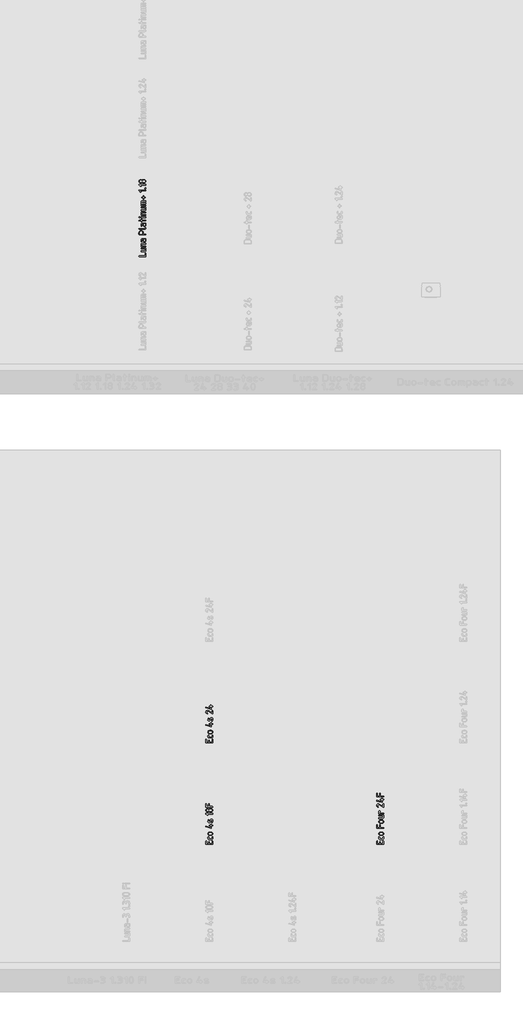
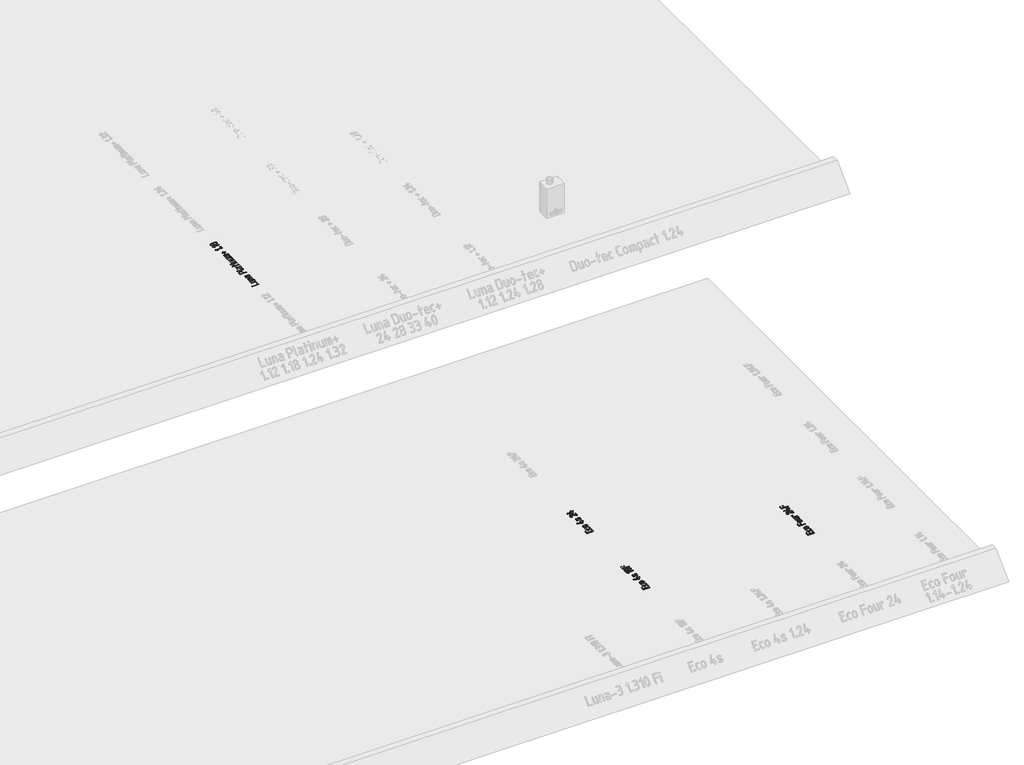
# One storey, part 20 of 37: 4 proxies.
"""IFC4 building model written with IfcOpenShell, lengths in millimetres."""

from ifc_helpers import new_model, si_unit, frame, origin, origin_with_axes, place, context, project, spatial, polyline, outline, extrude, element, save

model = new_model("IFC4")

# Units and contexts
model_context = context("Model", 3, world=origin())
ifc_project = project(units=[si_unit("LENGTHUNIT", "METRE", prefix="MILLI")], contexts=[model_context])

# Site, building, storey
site = spatial("IfcSite", under=ifc_project)
building = spatial("IfcBuilding", under=site)
storey = spatial("IfcBuildingStorey", under=building, Name="01_Стартовый вид_Площадка", Elevation=0.0)

# Proxies
placement = place(None, origin())
element("IfcBuildingElementProxy", 1, Name="150 мм", ObjectType="150 мм", at=placement, inside=storey, context=model_context, shape_type="SweptSolid", body=[
    extrude(outline(polyline([(15539.4355153, -2311.7183075), (15533.7723757, -2309.8006306), (15531.8846626, -2304.0475999), (15533.7623878, -2298.2945692), (15539.3955637, -2296.3768923), (15667.4004968, -2296.3768923), (15667.4004968, -2243.8804872), (15669.3181737, -2238.2473113), (15675.0712044, -2236.369586), (15680.8242351, -2238.2473113), (15682.741912, -2243.8804872), (15682.741912, -2304.0475999), (15680.8541988, -2309.8006306), (15675.1910592, -2311.7183075), (15539.4355153, -2311.7183075)])), frame((0.0, 0.0, -10.0), z_axis=(0.0, 0.0, 1.0), x_axis=(1.0, 0.0, 0.0)), (0.0, 0.0, 1.0), 10.0),
    extrude(outline(polyline([(15585.3798577, -2132.7351302), (15675.2709624, -2132.7351302), (15680.8741746, -2134.5928797), (15682.741912, -2140.1661282), (15682.741912, -2177.2412149), (15680.5745376, -2188.7372884), (15674.0724143, -2198.2957092), (15664.4141145, -2204.737905), (15652.7782104, -2206.8853037), (15585.3798577, -2206.8853037), (15579.7766455, -2204.9676268), (15577.9089081, -2199.2145961), (15579.7766455, -2193.4615654), (15585.3798577, -2191.5438885), (15652.4985492, -2191.5438885), (15662.9858448, -2187.269067), (15667.4004968, -2177.0414569), (15667.4004968, -2148.0765454), (15585.3798577, -2148.0765454), (15579.7766455, -2146.1588685), (15577.9089081, -2140.4058378), (15579.7766455, -2134.6528071), (15585.3798577, -2132.7351302)])), frame((0.0, 0.0, -10.0), z_axis=(0.0, 0.0, 1.0), x_axis=(1.0, 0.0, 0.0)), (0.0, 0.0, 1.0), 10.0),
    extrude(outline(polyline([(15675.2709624, -2102.0522998), (15585.3798577, -2102.0522998), (15579.7766455, -2100.1945503), (15577.9089081, -2094.6213018), (15577.9089081, -2057.5462151), (15580.0762826, -2046.0501416), (15586.5784058, -2036.4917208), (15596.2367056, -2030.049525), (15607.8726097, -2027.9021263), (15675.2709624, -2027.9021263), (15680.8741746, -2029.8198032), (15682.741912, -2035.5728339), (15680.8741746, -2041.3258646), (15675.2709624, -2043.2435415), (15608.1522709, -2043.2435415), (15597.5451206, -2047.418484), (15593.2503233, -2057.7459731), (15593.2503233, -2086.7108846), (15675.2709624, -2086.7108846), (15680.8741746, -2088.6285615), (15682.741912, -2094.3815922), (15680.8741746, -2100.1346229), (15675.2709624, -2102.0522998)])), frame((0.0, 0.0, -10.0), z_axis=(0.0, 0.0, 1.0), x_axis=(1.0, 0.0, 0.0)), (0.0, 0.0, 1.0), 10.0),
    extrude(outline(polyline([(15682.741912, -1968.4141909), (15680.5196041, -1980.0301192), (15673.8526805, -1989.7083948), (15663.9596651, -1996.2404817), (15652.0590816, -1998.417844), (15636.5978116, -1994.4226838), (15625.1816413, -1983.6657149), (15621.3762512, -1968.4141909), (15621.3762512, -1938.4105377), (15607.3132873, -1938.4105377), (15597.305411, -1942.7253107), (15593.2503233, -1953.3923885), (15593.2503233, -1983.3960416), (15591.3326464, -1989.0292175), (15585.5796157, -1990.9069428), (15579.826585, -1989.0292175), (15577.9089081, -1983.3960416), (15577.9089081, -1953.3923885), (15580.0762826, -1941.7115388), (15586.5784058, -1931.9184024), (15596.2367056, -1925.2814425), (15607.8726097, -1923.0691225), (15675.2709624, -1923.0691225), (15680.8741746, -1924.9867994), (15682.741912, -1930.7398301), (15682.741912, -1968.4141909)]), holes=[polyline([(15636.7176664, -1938.4105377), (15636.7176664, -1968.4141909), (15641.1922458, -1979.0213412), (15652.0590816, -1983.3960416), (15662.86599, -1978.9614138), (15667.4004968, -1968.4141909), (15667.4004968, -1938.4105377), (15636.7176664, -1938.4105377)])]), frame((0.0, 0.0, -10.0), z_axis=(0.0, 0.0, 1.0), x_axis=(1.0, 0.0, 0.0)), (0.0, 0.0, 1.0), 10.0),
    extrude(outline(polyline([(15531.8846626, -1833.7772919), (15531.8846626, -1796.5024471), (15535.2405971, -1779.248349), (15545.3084008, -1764.8008509), (15560.1703968, -1755.0177023), (15577.9089081, -1751.7566528), (15596.4464515, -1754.847908), (15611.1486411, -1764.1216736), (15620.7370256, -1778.33945), (15623.9331537, -1796.2627375), (15623.9331537, -1825.9068262), (15675.3908172, -1825.9068262), (15680.9041383, -1827.8245031), (15682.741912, -1833.5775338), (15680.8541988, -1839.3305645), (15675.1910592, -1841.2482414), (15539.4355153, -1841.2482414), (15533.7723757, -1839.380504), (15531.8846626, -1833.7772919)]), holes=[polyline([(15547.2260777, -1825.9068262), (15608.5917385, -1825.9068262), (15608.5917385, -1796.5024471), (15606.3694307, -1785.1112466), (15599.7025071, -1775.627735), (15589.8094916, -1769.2304848), (15577.9089081, -1767.098068), (15566.0083247, -1769.2304848), (15556.1153092, -1775.627735), (15549.4483856, -1785.1112466), (15547.2260777, -1796.5024471), (15547.2260777, -1825.9068262)])]), frame((0.0, 0.0, -10.0), z_axis=(0.0, 0.0, 1.0), x_axis=(1.0, 0.0, 0.0)), (0.0, 0.0, 1.0), 10.0),
    extrude(outline(polyline([(15539.4355153, -1721.0738224), (15533.7723757, -1719.1561455), (15531.8846626, -1713.4031148), (15533.7723757, -1707.6500841), (15539.4355153, -1705.7324072), (15660.1293052, -1705.7324072), (15664.9035217, -1703.8596759), (15667.6402064, -1698.2414818), (15670.3868791, -1692.6232878), (15675.1910592, -1690.7505564), (15680.8541988, -1692.6182938), (15682.741912, -1698.221506), (15681.2437269, -1707.4453321), (15676.7491717, -1714.7414935), (15669.5978349, -1719.4907402), (15660.1293052, -1721.0738224), (15539.4355153, -1721.0738224)])), frame((0.0, 0.0, -10.0), z_axis=(0.0, 0.0, 1.0), x_axis=(1.0, 0.0, 0.0)), (0.0, 0.0, 1.0), 10.0),
    extrude(outline(polyline([(15682.741912, -1633.459959), (15680.5196041, -1645.0758873), (15673.8526805, -1654.754163), (15663.9596651, -1661.2862499), (15652.0590816, -1663.4636122), (15636.5978116, -1659.468452), (15625.1816413, -1648.7114831), (15621.3762512, -1633.459959), (15621.3762512, -1603.4563059), (15607.3132873, -1603.4563059), (15597.305411, -1607.7710789), (15593.2503233, -1618.4381567), (15593.2503233, -1648.4418098), (15591.3326464, -1654.0749857), (15585.5796157, -1655.952711), (15579.826585, -1654.0749857), (15577.9089081, -1648.4418098), (15577.9089081, -1618.4381567), (15580.0762826, -1606.757307), (15586.5784058, -1596.9641705), (15596.2367056, -1590.3272107), (15607.8726097, -1588.1148907), (15675.2709624, -1588.1148907), (15680.8741746, -1590.0325676), (15682.741912, -1595.7855983), (15682.741912, -1633.459959)]), holes=[polyline([(15636.7176664, -1603.4563059), (15636.7176664, -1633.459959), (15641.1922458, -1644.0671094), (15652.0590816, -1648.4418098), (15662.86599, -1644.007182), (15667.4004968, -1633.459959), (15667.4004968, -1603.4563059), (15636.7176664, -1603.4563059)])]), frame((0.0, 0.0, -10.0), z_axis=(0.0, 0.0, 1.0), x_axis=(1.0, 0.0, 0.0)), (0.0, 0.0, 1.0), 10.0),
    extrude(outline(polyline([(15593.2503233, -1542.0906451), (15593.2503233, -1549.6015463), (15591.3326464, -1555.2347222), (15585.5796157, -1557.1124475), (15579.826585, -1555.2347222), (15577.9089081, -1549.6015463), (15577.9089081, -1542.0906451), (15539.5553702, -1542.0906451), (15533.8023395, -1540.1729682), (15531.8846626, -1534.4199375), (15533.8023395, -1528.6669068), (15539.5553702, -1526.7492299), (15577.9089081, -1526.7492299), (15577.9089081, -1504.2165263), (15579.826585, -1498.6133141), (15585.5796157, -1496.7455767), (15591.3326464, -1498.6133141), (15593.2503233, -1504.2165263), (15593.2503233, -1526.7492299), (15675.2709624, -1526.7492299), (15680.8741746, -1528.6669068), (15682.741912, -1534.4199375), (15680.8741746, -1540.1729682), (15675.2709624, -1542.0906451), (15593.2503233, -1542.0906451)])), frame((0.0, 0.0, -10.0), z_axis=(0.0, 0.0, 1.0), x_axis=(1.0, 0.0, 0.0)), (0.0, 0.0, 1.0), 10.0),
    extrude(outline(polyline([(15585.2200513, -1467.9404716), (15579.6168391, -1466.0227947), (15577.7491017, -1460.269764), (15579.6168391, -1454.5167333), (15585.2200513, -1452.5990564), (15675.2310108, -1452.5990564), (15680.8641867, -1454.5167333), (15682.741912, -1460.269764), (15680.8641867, -1466.0227947), (15675.2310108, -1467.9404716), (15585.2200513, -1467.9404716)])), frame((0.0, 0.0, -10.0), z_axis=(0.0, 0.0, 1.0), x_axis=(1.0, 0.0, 0.0)), (0.0, 0.0, 1.0), 10.0),
    extrude(outline(polyline([(15546.9064649, -1467.9404716), (15539.3955637, -1467.9404716), (15533.7623878, -1466.0227947), (15531.8846626, -1460.269764), (15533.7623878, -1454.5167333), (15539.3955637, -1452.5990564), (15546.9064649, -1452.5990564), (15552.5396408, -1454.5167333), (15554.4173661, -1460.269764), (15552.5396408, -1466.0227947), (15546.9064649, -1467.9404716)])), frame((0.0, 0.0, -10.0), z_axis=(0.0, 0.0, 1.0), x_axis=(1.0, 0.0, 0.0)), (0.0, 0.0, 1.0), 10.0),
    extrude(outline(polyline([(15675.2709624, -1421.916226), (15585.3798577, -1421.916226), (15579.7766455, -1420.0584766), (15577.9089081, -1414.4852281), (15577.9089081, -1377.4101413), (15580.0762826, -1365.9140678), (15586.5784058, -1356.355647), (15596.2367056, -1349.9134512), (15607.8726097, -1347.7660526), (15675.2709624, -1347.7660526), (15680.8741746, -1349.6837295), (15682.741912, -1355.4367602), (15680.8741746, -1361.1897909), (15675.2709624, -1363.1074678), (15608.1522709, -1363.1074678), (15597.5451206, -1367.2824102), (15593.2503233, -1377.6098993), (15593.2503233, -1406.5748108), (15675.2709624, -1406.5748108), (15680.8741746, -1408.4924877), (15682.741912, -1414.2455184), (15680.8741746, -1419.9985491), (15675.2709624, -1421.916226)])), frame((0.0, 0.0, -10.0), z_axis=(0.0, 0.0, 1.0), x_axis=(1.0, 0.0, 0.0)), (0.0, 0.0, 1.0), 10.0),
    extrude(outline(polyline([(15585.3798577, -1242.9330487), (15675.2709624, -1242.9330487), (15680.8741746, -1244.7907982), (15682.741912, -1250.3640467), (15682.741912, -1287.4391335), (15680.5745376, -1298.935207), (15674.0724143, -1308.4936278), (15664.4141145, -1314.9358236), (15652.7782104, -1317.0832222), (15585.3798577, -1317.0832222), (15579.7766455, -1315.1655453), (15577.9089081, -1309.4125146), (15579.7766455, -1303.6594839), (15585.3798577, -1301.741807), (15652.4985492, -1301.741807), (15662.9858448, -1297.4669856), (15667.4004968, -1287.2393754), (15667.4004968, -1258.2744639), (15585.3798577, -1258.2744639), (15579.7766455, -1256.356787), (15577.9089081, -1250.6037563), (15579.7766455, -1244.8507256), (15585.3798577, -1242.9330487)])), frame((0.0, 0.0, -10.0), z_axis=(0.0, 0.0, 1.0), x_axis=(1.0, 0.0, 0.0)), (0.0, 0.0, 1.0), 10.0),
    extrude(outline(polyline([(15577.9089081, -1204.5795107), (15577.9089081, -1135.5431424), (15580.0762826, -1123.6425589), (15586.5784058, -1113.7495434), (15596.2367056, -1107.0826198), (15607.8726097, -1104.860312), (15675.2709624, -1104.860312), (15680.8741746, -1106.7779889), (15682.741912, -1112.5310196), (15680.8741746, -1118.2840503), (15675.2709624, -1120.2017272), (15608.1522709, -1120.2017272), (15597.5451206, -1124.6163792), (15593.2503233, -1135.5431424), (15593.2503233, -1150.8845576), (15675.2709624, -1150.8845576), (15680.8741746, -1152.8022345), (15682.741912, -1158.5552652), (15680.8741746, -1164.3082959), (15675.2709624, -1166.2259728), (15593.2503233, -1166.2259728), (15593.2503233, -1196.9088031), (15675.2709624, -1196.9088031), (15680.8741746, -1198.82648), (15682.741912, -1204.5795107), (15680.8741746, -1210.3325414), (15675.2709624, -1212.2502183), (15585.3798577, -1212.2502183), (15579.7766455, -1210.3325414), (15577.9089081, -1204.5795107)])), frame((0.0, 0.0, -10.0), z_axis=(0.0, 0.0, 1.0), x_axis=(1.0, 0.0, 0.0)), (0.0, 0.0, 1.0), 10.0),
    extrude(outline(polyline([(15636.7176664, -1043.4946512), (15636.7176664, -1065.9874031), (15634.7999895, -1071.620579), (15629.0469588, -1073.4983043), (15623.2939281, -1071.620579), (15621.3762512, -1065.9874031), (15621.3762512, -1043.4946512), (15600.2818053, -1043.4946512), (15595.0081938, -1041.5769743), (15593.2503233, -1035.8239436), (15595.0081938, -1030.0709129), (15600.2818053, -1028.153236), (15621.3762512, -1028.153236), (15621.3762512, -1005.660484), (15623.2939281, -1000.0273081), (15629.0469588, -998.1495828), (15634.7999895, -1000.0273081), (15636.7176664, -1005.660484), (15636.7176664, -1028.153236), (15659.7297892, -1028.153236), (15665.4828199, -1030.0709129), (15667.4004968, -1035.8239436), (15665.4828199, -1041.5769743), (15659.7297892, -1043.4946512), (15636.7176664, -1043.4946512)])), frame((0.0, 0.0, -10.0), z_axis=(0.0, 0.0, 1.0), x_axis=(1.0, 0.0, 0.0)), (0.0, 0.0, 1.0), 10.0),
    extrude(outline(polyline([(15557.6134943, -887.5235967), (15574.912538, -904.7826888), (15577.0699245, -910.0163486), (15575.1921992, -915.6495245), (15569.5590233, -917.5272498), (15564.3253634, -915.3299117), (15534.8410811, -886.0054358), (15531.8846626, -879.8528891), (15533.7723757, -874.0998584), (15539.4355153, -872.1821815), (15675.1910592, -872.1821815), (15680.8541988, -874.0998584), (15682.741912, -879.8528891), (15680.8541988, -885.6059198), (15675.1910592, -887.5235967), (15557.6134943, -887.5235967)])), frame((0.0, 0.0, -10.0), z_axis=(0.0, 0.0, 1.0), x_axis=(1.0, 0.0, 0.0)), (0.0, 0.0, 1.0), 10.0),
    extrude(outline(polyline([(15667.4004968, -841.4993511), (15661.6474661, -839.5816742), (15659.7297892, -833.8286435), (15661.6474661, -828.0756128), (15667.4004968, -826.1579359), (15675.0712044, -826.1579359), (15680.8242351, -828.0756128), (15682.741912, -833.8286435), (15680.8242351, -839.5816742), (15675.0712044, -841.4993511), (15667.4004968, -841.4993511)])), frame((0.0, 0.0, -10.0), z_axis=(0.0, 0.0, 1.0), x_axis=(1.0, 0.0, 0.0)), (0.0, 0.0, 1.0), 10.0),
    extrude(outline(polyline([(15557.6134943, -764.7922751), (15574.912538, -782.0513672), (15577.0699245, -787.2850271), (15575.1921992, -792.9182029), (15569.5590233, -794.7959282), (15564.3253634, -792.5985901), (15534.8410811, -763.2741142), (15531.8846626, -757.1215675), (15533.7723757, -751.3685368), (15539.4355153, -749.4508599), (15675.1910592, -749.4508599), (15680.8541988, -751.3685368), (15682.741912, -757.1215675), (15680.8541988, -762.8745982), (15675.1910592, -764.7922751), (15557.6134943, -764.7922751)])), frame((0.0, 0.0, -10.0), z_axis=(0.0, 0.0, 1.0), x_axis=(1.0, 0.0, 0.0)), (0.0, 0.0, 1.0), 10.0),
    extrude(outline(polyline([(15682.741912, -681.6929428), (15679.9852515, -695.9406829), (15671.7152698, -707.9211695), (15659.5300312, -716.0563145), (15645.0275996, -718.7680295), (15629.925894, -718.7680295), (15613.0163785, -714.9326757), (15599.7624345, -703.4266143), (15586.5084905, -714.9326757), (15569.5989749, -718.7680295), (15555.0965434, -716.0563145), (15542.9113047, -707.9211695), (15534.6413231, -695.9406829), (15531.8846626, -681.6929428), (15534.6413231, -667.4452027), (15542.9113047, -655.464716), (15555.0965434, -647.329571), (15569.5989749, -644.617856), (15586.5084905, -648.4532098), (15599.7624345, -659.9592712), (15608.9413151, -651.7092654), (15620.0178967, -647.1747586), (15645.0275996, -644.617856), (15659.5300312, -647.329571), (15671.7152698, -655.464716), (15679.9852515, -667.4452027), (15682.741912, -681.6929428)]), holes=[polyline([(15667.4004968, -681.6929428), (15665.7624811, -673.2831305), (15660.8484341, -666.2716244), (15653.5772425, -661.5373595), (15644.8677932, -659.9592712), (15629.8859424, -659.9592712), (15621.2563964, -661.5523414), (15613.9852048, -666.3315518), (15609.0411941, -673.3580398), (15607.3931905, -681.6929428), (15609.0262122, -690.102755), (15613.9252774, -697.1142612), (15621.1814871, -701.848526), (15629.8859424, -703.4266143), (15644.8677932, -703.4266143), (15653.5772425, -701.848526), (15660.8484341, -697.1142612), (15665.7624811, -690.102755), (15667.4004968, -681.6929428)]), polyline([(15592.7309525, -681.6929428), (15591.0979308, -673.2831305), (15586.1988656, -666.2716244), (15578.9426558, -661.5373595), (15570.2382005, -659.9592712), (15561.6086545, -661.5523414), (15554.3374629, -666.3315518), (15549.3934522, -673.3580398), (15547.7454486, -681.6929428), (15549.3784703, -690.102755), (15554.2775355, -697.1142612), (15561.5337452, -701.848526), (15570.2382005, -703.4266143), (15578.9426558, -701.848526), (15586.1988656, -697.1142612), (15591.0979308, -690.102755), (15592.7309525, -681.6929428)])]), frame((0.0, 0.0, -10.0), z_axis=(0.0, 0.0, 1.0), x_axis=(1.0, 0.0, 0.0)), (0.0, 0.0, 1.0), 10.0),
])
element("IfcBuildingElementProxy", 2, Name="150 мм", ObjectType="150 мм", at=placement, inside=storey, context=model_context, shape_type="SweptSolid", body=[
    extrude(outline(polyline([(20822.6374214, -15038.8871108), (20686.8818775, -15038.8871108), (20681.2187379, -15036.9694339), (20679.3310247, -15031.2164032), (20679.3310247, -14971.0492905), (20681.2487016, -14965.4161146), (20687.0017323, -14963.5383893), (20692.754763, -14965.4161146), (20694.6724399, -14971.0492905), (20694.6724399, -15023.5456956), (20740.6966855, -15023.5456956), (20740.6966855, -14986.0311412), (20742.6143624, -14980.427929), (20748.3673931, -14978.5601916), (20754.1204238, -14980.427929), (20756.0381007, -14986.0311412), (20756.0381007, -15023.5456956), (20814.846859, -15023.5456956), (20814.846859, -14971.0492905), (20816.7645359, -14965.4161146), (20822.5175666, -14963.5383893), (20828.2705973, -14965.4161146), (20830.1882742, -14971.0492905), (20830.1882742, -15031.2164032), (20828.300561, -15036.9694339), (20822.6374214, -15038.8871108)])), origin_with_axes(), (0.0, 0.0, 1.0), 10.0),
    extrude(outline(polyline([(20755.5187299, -14918.7126917), (20800.0248146, -14918.7126917), (20810.4721585, -14914.2780639), (20814.846859, -14903.730841), (20814.846859, -14881.1981374), (20816.7645359, -14875.5949252), (20822.5175666, -14873.7271878), (20828.2705973, -14875.5949252), (20830.1882742, -14881.1981374), (20830.1882742, -14903.730841), (20828.0208998, -14915.3867209), (20821.5187765, -14925.1848513), (20811.8604767, -14931.836793), (20800.2245726, -14934.0541069), (20755.3189719, -14934.0541069), (20743.6830678, -14931.836793), (20734.024768, -14925.1848513), (20727.5226447, -14915.3867209), (20725.3552703, -14903.730841), (20725.3552703, -14881.1981374), (20727.2729472, -14875.5949252), (20733.0259779, -14873.7271878), (20738.7790086, -14875.5949252), (20740.6966855, -14881.1981374), (20740.6966855, -14903.730841), (20745.0314343, -14914.3379913), (20755.5187299, -14918.7126917)])), origin_with_axes(), (0.0, 0.0, 1.0), 10.0),
    extrude(outline(polyline([(20792.753623, -14844.5625183), (20762.7899215, -14844.5625183), (20748.3973568, -14841.8508033), (20736.3020093, -14833.7156583), (20728.0919551, -14821.7351716), (20725.3552703, -14807.4874315), (20728.0619914, -14793.089873), (20736.1821545, -14781.13935), (20748.2475383, -14773.0940961), (20762.7899215, -14770.4123448), (20792.753623, -14770.4123448), (20807.1461877, -14773.1240598), (20819.2415352, -14781.2592048), (20827.4515894, -14793.2396915), (20830.1882742, -14807.4874315), (20827.4515894, -14821.7351716), (20819.2415352, -14833.7156583), (20807.1461877, -14841.8508033), (20792.753623, -14844.5625183)]), holes=[polyline([(20792.3141554, -14785.75376), (20762.3105022, -14785.75376), (20753.6809562, -14787.3468302), (20746.4097646, -14792.1260406), (20741.4657539, -14799.1525286), (20739.8177503, -14807.4874315), (20741.4657539, -14815.8223345), (20746.4097646, -14822.8488225), (20753.6809562, -14827.6280329), (20762.3105022, -14829.2211031), (20792.3141554, -14829.2211031), (20801.0236047, -14827.6430148), (20808.2947962, -14822.90875), (20813.2088433, -14815.8972438), (20814.846859, -14807.4874315), (20813.1988554, -14799.1525286), (20808.2548446, -14792.1260406), (20800.9736651, -14787.3468302), (20792.3141554, -14785.75376)])]), origin_with_axes(), (0.0, 0.0, 1.0), 10.0),
    extrude(outline(polyline([(20822.6374214, -14688.5914638), (20686.8818775, -14688.5914638), (20681.2187379, -14686.6737869), (20679.3310247, -14680.9207562), (20679.3310247, -14620.7536434), (20681.2487016, -14615.1204675), (20687.0017323, -14613.2427423), (20692.754763, -14615.1204675), (20694.6724399, -14620.7536434), (20694.6724399, -14673.2500486), (20740.6966855, -14673.2500486), (20740.6966855, -14620.7536434), (20742.6143624, -14615.1204675), (20748.3673931, -14613.2427423), (20754.1204238, -14615.1204675), (20756.0381007, -14620.7536434), (20756.0381007, -14673.2500486), (20822.7572762, -14673.2500486), (20828.3305247, -14675.1677255), (20830.1882742, -14680.9207562), (20828.300561, -14686.6737869), (20822.6374214, -14688.5914638)])), origin_with_axes(), (0.0, 0.0, 1.0), 10.0),
    extrude(outline(polyline([(20792.753623, -14583.7584599), (20762.7899215, -14583.7584599), (20748.3973568, -14581.0467449), (20736.3020093, -14572.9116), (20728.0919551, -14560.9311133), (20725.3552703, -14546.6833732), (20728.0619914, -14532.2858146), (20736.1821545, -14520.3352916), (20748.2475383, -14512.2900378), (20762.7899215, -14509.6082865), (20792.753623, -14509.6082865), (20807.1461877, -14512.3200015), (20819.2415352, -14520.4551464), (20827.4515894, -14532.4356331), (20830.1882742, -14546.6833732), (20827.4515894, -14560.9311133), (20819.2415352, -14572.9116), (20807.1461877, -14581.0467449), (20792.753623, -14583.7584599)]), holes=[polyline([(20792.3141554, -14524.9497017), (20762.3105022, -14524.9497017), (20753.6809562, -14526.5427718), (20746.4097646, -14531.3219822), (20741.4657539, -14538.3484702), (20739.8177503, -14546.6833732), (20741.4657539, -14555.0182762), (20746.4097646, -14562.0447642), (20753.6809562, -14566.8239746), (20762.3105022, -14568.4170447), (20792.3141554, -14568.4170447), (20801.0236047, -14566.8389564), (20808.2947962, -14562.1046916), (20813.2088433, -14555.0931854), (20814.846859, -14546.6833732), (20813.1988554, -14538.3484702), (20808.2548446, -14531.3219822), (20800.9736651, -14526.5427718), (20792.3141554, -14524.9497017)])]), origin_with_axes(), (0.0, 0.0, 1.0), 10.0),
    extrude(outline(polyline([(20732.8262199, -14404.7752826), (20822.7173246, -14404.7752826), (20828.3205368, -14406.6330321), (20830.1882742, -14412.2062806), (20830.1882742, -14449.2813673), (20828.0208998, -14460.7774408), (20821.5187765, -14470.3358616), (20811.8604767, -14476.7780575), (20800.2245726, -14478.9254561), (20732.8262199, -14478.9254561), (20727.2230077, -14477.0077792), (20725.3552703, -14471.2547485), (20727.2230077, -14465.5017178), (20732.8262199, -14463.5840409), (20799.9449114, -14463.5840409), (20810.4322069, -14459.3092194), (20814.846859, -14449.0816093), (20814.846859, -14420.1166978), (20732.8262199, -14420.1166978), (20727.2230077, -14418.1990209), (20725.3552703, -14412.4459902), (20727.2230077, -14406.6929595), (20732.8262199, -14404.7752826)])), origin_with_axes(), (0.0, 0.0, 1.0), 10.0),
    extrude(outline(polyline([(20732.8262199, -14374.0924522), (20727.2230077, -14372.1747753), (20725.3552703, -14366.4217446), (20725.3552703, -14321.2364827), (20727.2729472, -14315.6332705), (20733.0259779, -14313.7655331), (20748.2075867, -14313.7655331), (20753.8407626, -14315.6332705), (20755.7184879, -14321.2364827), (20753.8407626, -14326.8696586), (20748.2075867, -14328.7473839), (20740.6966855, -14328.7473839), (20740.6966855, -14358.751037), (20822.7173246, -14358.751037), (20828.3205368, -14360.6687139), (20830.1882742, -14366.4217446), (20828.3205368, -14372.1747753), (20822.7173246, -14374.0924522), (20732.8262199, -14374.0924522)])), origin_with_axes(), (0.0, 0.0, 1.0), 10.0),
    extrude(outline(polyline([(20679.3310247, -14196.307823), (20682.0826913, -14181.8803007), (20690.3376911, -14169.7599834), (20702.49796, -14161.5349473), (20716.9654339, -14158.7932686), (20727.7623543, -14160.5011996), (20738.6591538, -14165.6249926), (20814.846859, -14212.8877378), (20814.846859, -14166.3041698), (20816.7645359, -14160.6709939), (20822.5175666, -14158.7932686), (20828.2705973, -14160.6709939), (20830.1882742, -14166.3041698), (20830.1882742, -14226.3114761), (20828.3105489, -14231.944652), (20822.677373, -14233.8223773), (20818.3226484, -14232.5439261), (20729.7099949, -14177.5705216), (20717.2450951, -14173.815071), (20708.5805914, -14175.4630746), (20701.2844301, -14180.4070853), (20696.3254375, -14187.6782769), (20694.6724399, -14196.307823), (20699.386729, -14208.5430011), (20713.5295961, -14219.8393166), (20717.1651919, -14226.3114761), (20715.2874666, -14231.944652), (20709.6542907, -14233.8223773), (20706.5780173, -14233.1032485), (20686.1427729, -14216.9328375), (20681.0339618, -14207.1771557), (20679.3310247, -14196.307823)])), origin_with_axes(), (0.0, 0.0, 1.0), 10.0),
    extrude(outline(polyline([(20791.9945426, -14130.0281151), (20789.9570109, -14129.7884055), (20684.8043942, -14099.7847524), (20680.6993671, -14097.1679224), (20679.3310247, -14092.5135608), (20681.1987621, -14086.8803849), (20686.8019743, -14085.0026596), (20688.9593608, -14085.362224), (20784.1640286, -14112.6092166), (20784.1640286, -14077.4917584), (20761.631325, -14077.4917584), (20756.0281128, -14075.5740815), (20754.1603754, -14069.8210508), (20756.0281128, -14064.0680201), (20761.631325, -14062.1503432), (20784.1640286, -14062.1503432), (20784.1640286, -14047.1285408), (20786.0817055, -14041.5253286), (20791.8347362, -14039.6575912), (20797.5877669, -14041.5253286), (20799.5054438, -14047.1285408), (20799.5054438, -14062.1503432), (20822.5175666, -14062.1503432), (20828.2705973, -14064.0680201), (20830.1882742, -14069.8210508), (20828.2705973, -14075.5740815), (20822.5175666, -14077.4917584), (20799.5054438, -14077.4917584), (20799.5054438, -14122.5172139), (20797.6277185, -14128.1503898), (20791.9945426, -14130.0281151)])), origin_with_axes(), (0.0, 0.0, 1.0), 10.0),
    extrude(outline(polyline([(20822.6374214, -14008.45539), (20686.8818775, -14008.45539), (20681.2187379, -14006.5377131), (20679.3310247, -14000.7846824), (20679.3310247, -13940.6175697), (20681.2487016, -13934.9843938), (20687.0017323, -13933.1066685), (20692.754763, -13934.9843938), (20694.6724399, -13940.6175697), (20694.6724399, -13993.1139748), (20740.6966855, -13993.1139748), (20740.6966855, -13940.6175697), (20742.6143624, -13934.9843938), (20748.3673931, -13933.1066685), (20754.1204238, -13934.9843938), (20756.0381007, -13940.6175697), (20756.0381007, -13993.1139748), (20822.7572762, -13993.1139748), (20828.3305247, -13995.0316517), (20830.1882742, -14000.7846824), (20828.300561, -14006.5377131), (20822.6374214, -14008.45539)])), origin_with_axes(), (0.0, 0.0, 1.0), 10.0),
])
element("IfcBuildingElementProxy", 3, Name="150 мм", ObjectType="150 мм", at=placement, inside=storey, context=model_context, shape_type="SweptSolid", body=[
    extrude(outline(polyline([(17122.6374214, -15038.8871108), (16986.8818775, -15038.8871108), (16981.2187379, -15036.9694339), (16979.3310247, -15031.2164032), (16979.3310247, -14971.0492905), (16981.2487016, -14965.4161146), (16987.0017323, -14963.5383893), (16992.754763, -14965.4161146), (16994.6724399, -14971.0492905), (16994.6724399, -15023.5456956), (17040.6966855, -15023.5456956), (17040.6966855, -14986.0311412), (17042.6143624, -14980.427929), (17048.3673931, -14978.5601916), (17054.1204238, -14980.427929), (17056.0381007, -14986.0311412), (17056.0381007, -15023.5456956), (17114.846859, -15023.5456956), (17114.846859, -14971.0492905), (17116.7645359, -14965.4161146), (17122.5175666, -14963.5383893), (17128.2705973, -14965.4161146), (17130.1882742, -14971.0492905), (17130.1882742, -15031.2164032), (17128.300561, -15036.9694339), (17122.6374214, -15038.8871108)])), origin_with_axes(), (0.0, 0.0, 1.0), 10.0),
    extrude(outline(polyline([(17055.5187299, -14918.7126917), (17100.0248146, -14918.7126917), (17110.4721585, -14914.2780639), (17114.846859, -14903.730841), (17114.846859, -14881.1981374), (17116.7645359, -14875.5949252), (17122.5175666, -14873.7271878), (17128.2705973, -14875.5949252), (17130.1882742, -14881.1981374), (17130.1882742, -14903.730841), (17128.0208998, -14915.3867209), (17121.5187765, -14925.1848513), (17111.8604767, -14931.836793), (17100.2245726, -14934.0541069), (17055.3189719, -14934.0541069), (17043.6830678, -14931.836793), (17034.024768, -14925.1848513), (17027.5226447, -14915.3867209), (17025.3552703, -14903.730841), (17025.3552703, -14881.1981374), (17027.2729472, -14875.5949252), (17033.0259779, -14873.7271878), (17038.7790086, -14875.5949252), (17040.6966855, -14881.1981374), (17040.6966855, -14903.730841), (17045.0314343, -14914.3379913), (17055.5187299, -14918.7126917)])), origin_with_axes(), (0.0, 0.0, 1.0), 10.0),
    extrude(outline(polyline([(17092.753623, -14844.5625183), (17062.7899215, -14844.5625183), (17048.3973568, -14841.8508033), (17036.3020093, -14833.7156583), (17028.0919551, -14821.7351716), (17025.3552703, -14807.4874315), (17028.0619914, -14793.089873), (17036.1821545, -14781.13935), (17048.2475383, -14773.0940961), (17062.7899215, -14770.4123448), (17092.753623, -14770.4123448), (17107.1461877, -14773.1240598), (17119.2415352, -14781.2592048), (17127.4515894, -14793.2396915), (17130.1882742, -14807.4874315), (17127.4515894, -14821.7351716), (17119.2415352, -14833.7156583), (17107.1461877, -14841.8508033), (17092.753623, -14844.5625183)]), holes=[polyline([(17092.3141554, -14785.75376), (17062.3105022, -14785.75376), (17053.6809562, -14787.3468302), (17046.4097646, -14792.1260406), (17041.4657539, -14799.1525286), (17039.8177503, -14807.4874315), (17041.4657539, -14815.8223345), (17046.4097646, -14822.8488225), (17053.6809562, -14827.6280329), (17062.3105022, -14829.2211031), (17092.3141554, -14829.2211031), (17101.0236047, -14827.6430148), (17108.2947962, -14822.90875), (17113.2088433, -14815.8972438), (17114.846859, -14807.4874315), (17113.1988554, -14799.1525286), (17108.2548446, -14792.1260406), (17100.9736651, -14787.3468302), (17092.3141554, -14785.75376)])]), origin_with_axes(), (0.0, 0.0, 1.0), 10.0),
    extrude(outline(polyline([(17091.9945426, -14689.9897698), (17089.9570109, -14689.7500602), (16984.8043942, -14659.7464071), (16980.6993671, -14657.1295771), (16979.3310247, -14652.4752155), (16981.1987621, -14646.8420396), (16986.8019743, -14644.9643143), (16988.9593608, -14645.3238787), (17084.1640286, -14672.5708713), (17084.1640286, -14637.4534131), (17061.631325, -14637.4534131), (17056.0281128, -14635.5357362), (17054.1603754, -14629.7827055), (17056.0281128, -14624.0296748), (17061.631325, -14622.1119979), (17084.1640286, -14622.1119979), (17084.1640286, -14607.0901955), (17086.0817055, -14601.4869833), (17091.8347362, -14599.6192459), (17097.5877669, -14601.4869833), (17099.5054438, -14607.0901955), (17099.5054438, -14622.1119979), (17122.5175666, -14622.1119979), (17128.2705973, -14624.0296748), (17130.1882742, -14629.7827055), (17128.2705973, -14635.5357362), (17122.5175666, -14637.4534131), (17099.5054438, -14637.4534131), (17099.5054438, -14682.4788687), (17097.6277185, -14688.1120445), (17091.9945426, -14689.9897698)])), origin_with_axes(), (0.0, 0.0, 1.0), 10.0),
    extrude(outline(polyline([(17103.6604104, -14508.7693028), (17097.5378274, -14510.357379), (17093.4727519, -14515.1216075), (17075.0151117, -14553.634952), (17065.4866546, -14564.9911948), (17051.3637633, -14568.7766091), (17039.9376051, -14566.0998518), (17031.4678654, -14558.0695798), (17026.8834191, -14547.7420906), (17025.3552703, -14535.1373602), (17027.4727052, -14519.2865621), (17033.82501, -14505.2136102), (17040.5768307, -14501.2584016), (17045.870418, -14503.4757155), (17048.0877319, -14508.7693028), (17047.1688451, -14512.2850438), (17042.3147254, -14523.3915892), (17040.6966855, -14535.1373602), (17043.4733219, -14549.1004451), (17051.8032309, -14553.7548068), (17057.7859833, -14552.2166701), (17061.7511798, -14547.60226), (17080.408578, -14508.7693028), (17089.9370351, -14497.502951), (17104.0599264, -14493.7475004), (17115.945528, -14496.4442336), (17124.4352435, -14504.534433), (17128.7500165, -14515.0916438), (17130.1882742, -14528.3056362), (17128.0708393, -14548.1515946), (17121.7185345, -14564.5417393), (17114.846859, -14568.7766091), (17109.5532717, -14566.5592952), (17107.3359578, -14561.2657079), (17107.8952802, -14558.4291442), (17112.0901984, -14547.7221148), (17114.846859, -14527.8661686), (17112.0502468, -14513.5435193), (17103.6604104, -14508.7693028)])), origin_with_axes(), (0.0, 0.0, 1.0), 10.0),
    extrude(outline(polyline([(17005.0598565, -14381.7631598), (17022.3589002, -14399.0222519), (17024.5162867, -14404.2559118), (17022.6385614, -14409.8890877), (17017.0053855, -14411.766813), (17011.7717256, -14409.5694749), (16982.2874433, -14380.2449989), (16979.3310247, -14374.0924522), (16981.2187379, -14368.3394215), (16986.8818775, -14366.4217446), (17122.6374214, -14366.4217446), (17128.300561, -14368.3394215), (17130.1882742, -14374.0924522), (17128.300561, -14379.8454829), (17122.6374214, -14381.7631598), (17005.0598565, -14381.7631598)])), origin_with_axes(), (0.0, 0.0, 1.0), 10.0),
    extrude(outline(polyline([(17130.1882742, -14298.6638275), (17127.4316136, -14312.9115676), (17119.161632, -14324.8920543), (17106.9763934, -14333.0271992), (17092.4739618, -14335.7389142), (17077.3722562, -14335.7389142), (17060.4627406, -14331.9035604), (17047.2087967, -14320.397499), (17033.9548527, -14331.9035604), (17017.0453371, -14335.7389142), (17002.5429055, -14333.0271992), (16990.3576669, -14324.8920543), (16982.0876853, -14312.9115676), (16979.3310247, -14298.6638275), (16982.0876853, -14284.4160874), (16990.3576669, -14272.4356007), (17002.5429055, -14264.3004558), (17017.0453371, -14261.5887408), (17033.9548527, -14265.4240946), (17047.2087967, -14276.930156), (17056.3876772, -14268.6801501), (17067.4642589, -14264.1456433), (17092.4739618, -14261.5887408), (17106.9763934, -14264.3004558), (17119.161632, -14272.4356007), (17127.4316136, -14284.4160874), (17130.1882742, -14298.6638275)]), holes=[polyline([(17114.846859, -14298.6638275), (17113.2088433, -14290.2540153), (17108.2947962, -14283.2425091), (17101.0236047, -14278.5082442), (17092.3141554, -14276.930156), (17077.3323046, -14276.930156), (17068.7027586, -14278.5232261), (17061.431567, -14283.3024365), (17056.4875562, -14290.3289245), (17054.8395527, -14298.6638275), (17056.4725744, -14307.0736397), (17061.3716396, -14314.0851459), (17068.6278493, -14318.8194107), (17077.3323046, -14320.397499), (17092.3141554, -14320.397499), (17101.0236047, -14318.8194107), (17108.2947962, -14314.0851459), (17113.2088433, -14307.0736397), (17114.846859, -14298.6638275)]), polyline([(17040.1773147, -14298.6638275), (17038.544293, -14290.2540153), (17033.6452277, -14283.2425091), (17026.389018, -14278.5082442), (17017.6845627, -14276.930156), (17009.0550167, -14278.5232261), (17001.7838251, -14283.3024365), (16996.8398143, -14290.3289245), (16995.1918108, -14298.6638275), (16996.8248325, -14307.0736397), (17001.7238977, -14314.0851459), (17008.9801074, -14318.8194107), (17017.6845627, -14320.397499), (17026.389018, -14318.8194107), (17033.6452277, -14314.0851459), (17038.544293, -14307.0736397), (17040.1773147, -14298.6638275)])]), origin_with_axes(), (0.0, 0.0, 1.0), 10.0),
    extrude(outline(polyline([(17122.6374214, -14230.9059104), (16986.8818775, -14230.9059104), (16981.2187379, -14228.9882335), (16979.3310247, -14223.2352028), (16979.3310247, -14163.06809), (16981.2487016, -14157.4349142), (16987.0017323, -14155.5571889), (16992.754763, -14157.4349142), (16994.6724399, -14163.06809), (16994.6724399, -14215.5644952), (17040.6966855, -14215.5644952), (17040.6966855, -14163.06809), (17042.6143624, -14157.4349142), (17048.3673931, -14155.5571889), (17054.1204238, -14157.4349142), (17056.0381007, -14163.06809), (17056.0381007, -14215.5644952), (17122.7572762, -14215.5644952), (17128.3305247, -14217.4821721), (17130.1882742, -14223.2352028), (17128.300561, -14228.9882335), (17122.6374214, -14230.9059104)])), origin_with_axes(), (0.0, 0.0, 1.0), 10.0),
])
element("IfcBuildingElementProxy", 4, Name="150 мм", ObjectType="150 мм", at=placement, inside=storey, context=model_context, shape_type="SweptSolid", body=[
    extrude(outline(polyline([(17122.6374214, -12838.8871108), (16986.8818775, -12838.8871108), (16981.2187379, -12836.9694339), (16979.3310247, -12831.2164032), (16979.3310247, -12771.0492905), (16981.2487016, -12765.4161146), (16987.0017323, -12763.5383893), (16992.754763, -12765.4161146), (16994.6724399, -12771.0492905), (16994.6724399, -12823.5456956), (17040.6966855, -12823.5456956), (17040.6966855, -12786.0311412), (17042.6143624, -12780.427929), (17048.3673931, -12778.5601916), (17054.1204238, -12780.427929), (17056.0381007, -12786.0311412), (17056.0381007, -12823.5456956), (17114.846859, -12823.5456956), (17114.846859, -12771.0492905), (17116.7645359, -12765.4161146), (17122.5175666, -12763.5383893), (17128.2705973, -12765.4161146), (17130.1882742, -12771.0492905), (17130.1882742, -12831.2164032), (17128.300561, -12836.9694339), (17122.6374214, -12838.8871108)])), origin_with_axes(), (0.0, 0.0, 1.0), 10.0),
    extrude(outline(polyline([(17055.5187299, -12718.7126917), (17100.0248146, -12718.7126917), (17110.4721585, -12714.2780639), (17114.846859, -12703.730841), (17114.846859, -12681.1981374), (17116.7645359, -12675.5949252), (17122.5175666, -12673.7271878), (17128.2705973, -12675.5949252), (17130.1882742, -12681.1981374), (17130.1882742, -12703.730841), (17128.0208998, -12715.3867209), (17121.5187765, -12725.1848513), (17111.8604767, -12731.836793), (17100.2245726, -12734.0541069), (17055.3189719, -12734.0541069), (17043.6830678, -12731.836793), (17034.024768, -12725.1848513), (17027.5226447, -12715.3867209), (17025.3552703, -12703.730841), (17025.3552703, -12681.1981374), (17027.2729472, -12675.5949252), (17033.0259779, -12673.7271878), (17038.7790086, -12675.5949252), (17040.6966855, -12681.1981374), (17040.6966855, -12703.730841), (17045.0314343, -12714.3379913), (17055.5187299, -12718.7126917)])), origin_with_axes(), (0.0, 0.0, 1.0), 10.0),
    extrude(outline(polyline([(17092.753623, -12644.5625183), (17062.7899215, -12644.5625183), (17048.3973568, -12641.8508033), (17036.3020093, -12633.7156583), (17028.0919551, -12621.7351716), (17025.3552703, -12607.4874315), (17028.0619914, -12593.089873), (17036.1821545, -12581.13935), (17048.2475383, -12573.0940961), (17062.7899215, -12570.4123448), (17092.753623, -12570.4123448), (17107.1461877, -12573.1240598), (17119.2415352, -12581.2592048), (17127.4515894, -12593.2396915), (17130.1882742, -12607.4874315), (17127.4515894, -12621.7351716), (17119.2415352, -12633.7156583), (17107.1461877, -12641.8508033), (17092.753623, -12644.5625183)]), holes=[polyline([(17092.3141554, -12585.75376), (17062.3105022, -12585.75376), (17053.6809562, -12587.3468302), (17046.4097646, -12592.1260406), (17041.4657539, -12599.1525286), (17039.8177503, -12607.4874315), (17041.4657539, -12615.8223345), (17046.4097646, -12622.8488225), (17053.6809562, -12627.6280329), (17062.3105022, -12629.2211031), (17092.3141554, -12629.2211031), (17101.0236047, -12627.6430148), (17108.2947962, -12622.90875), (17113.2088433, -12615.8972438), (17114.846859, -12607.4874315), (17113.1988554, -12599.1525286), (17108.2548446, -12592.1260406), (17100.9736651, -12587.3468302), (17092.3141554, -12585.75376)])]), origin_with_axes(), (0.0, 0.0, 1.0), 10.0),
    extrude(outline(polyline([(17091.9945426, -12489.9897698), (17089.9570109, -12489.7500602), (16984.8043942, -12459.7464071), (16980.6993671, -12457.1295771), (16979.3310247, -12452.4752155), (16981.1987621, -12446.8420396), (16986.8019743, -12444.9643143), (16988.9593608, -12445.3238787), (17084.1640286, -12472.5708713), (17084.1640286, -12437.4534131), (17061.631325, -12437.4534131), (17056.0281128, -12435.5357362), (17054.1603754, -12429.7827055), (17056.0281128, -12424.0296748), (17061.631325, -12422.1119979), (17084.1640286, -12422.1119979), (17084.1640286, -12407.0901955), (17086.0817055, -12401.4869833), (17091.8347362, -12399.6192459), (17097.5877669, -12401.4869833), (17099.5054438, -12407.0901955), (17099.5054438, -12422.1119979), (17122.5175666, -12422.1119979), (17128.2705973, -12424.0296748), (17130.1882742, -12429.7827055), (17128.2705973, -12435.5357362), (17122.5175666, -12437.4534131), (17099.5054438, -12437.4534131), (17099.5054438, -12482.4788687), (17097.6277185, -12488.1120445), (17091.9945426, -12489.9897698)])), origin_with_axes(), (0.0, 0.0, 1.0), 10.0),
    extrude(outline(polyline([(17103.6604104, -12308.7693028), (17097.5378274, -12310.357379), (17093.4727519, -12315.1216075), (17075.0151117, -12353.634952), (17065.4866546, -12364.9911948), (17051.3637633, -12368.7766091), (17039.9376051, -12366.0998518), (17031.4678654, -12358.0695798), (17026.8834191, -12347.7420906), (17025.3552703, -12335.1373602), (17027.4727052, -12319.2865621), (17033.82501, -12305.2136102), (17040.5768307, -12301.2584016), (17045.870418, -12303.4757155), (17048.0877319, -12308.7693028), (17047.1688451, -12312.2850438), (17042.3147254, -12323.3915892), (17040.6966855, -12335.1373602), (17043.4733219, -12349.1004451), (17051.8032309, -12353.7548068), (17057.7859833, -12352.2166701), (17061.7511798, -12347.60226), (17080.408578, -12308.7693028), (17089.9370351, -12297.502951), (17104.0599264, -12293.7475004), (17115.945528, -12296.4442336), (17124.4352435, -12304.534433), (17128.7500165, -12315.0916438), (17130.1882742, -12328.3056362), (17128.0708393, -12348.1515946), (17121.7185345, -12364.5417393), (17114.846859, -12368.7766091), (17109.5532717, -12366.5592952), (17107.3359578, -12361.2657079), (17107.8952802, -12358.4291442), (17112.0901984, -12347.7221148), (17114.846859, -12327.8661686), (17112.0502468, -12313.5435193), (17103.6604104, -12308.7693028)])), origin_with_axes(), (0.0, 0.0, 1.0), 10.0),
    extrude(outline(polyline([(16979.3310247, -12175.2910003), (16982.0826913, -12160.863478), (16990.3376911, -12148.7431607), (17002.49796, -12140.5181246), (17016.9654339, -12137.7764459), (17027.7623543, -12139.4843769), (17038.6591538, -12144.6081699), (17114.846859, -12191.8709151), (17114.846859, -12145.2873471), (17116.7645359, -12139.6541712), (17122.5175666, -12137.7764459), (17128.2705973, -12139.6541712), (17130.1882742, -12145.2873471), (17130.1882742, -12205.2946534), (17128.3105489, -12210.9278293), (17122.677373, -12212.8055546), (17118.3226484, -12211.5271034), (17029.7099949, -12156.5536989), (17017.2450951, -12152.7982483), (17008.5805914, -12154.4462519), (17001.2844301, -12159.3902627), (16996.3254375, -12166.6614542), (16994.6724399, -12175.2910003), (16999.386729, -12187.5261784), (17013.5295961, -12198.8224939), (17017.1651919, -12205.2946534), (17015.2874666, -12210.9278293), (17009.6542907, -12212.8055546), (17006.5780173, -12212.0864258), (16986.1427729, -12195.9160149), (16981.0339618, -12186.160333), (16979.3310247, -12175.2910003)])), origin_with_axes(), (0.0, 0.0, 1.0), 10.0),
    extrude(outline(polyline([(17091.9945426, -12109.0112924), (17089.9570109, -12108.7715828), (16984.8043942, -12078.7679297), (16980.6993671, -12076.1510997), (16979.3310247, -12071.4967381), (16981.1987621, -12065.8635622), (16986.8019743, -12063.9858369), (16988.9593608, -12064.3454013), (17084.1640286, -12091.5923939), (17084.1640286, -12056.4749357), (17061.631325, -12056.4749357), (17056.0281128, -12054.5572588), (17054.1603754, -12048.8042281), (17056.0281128, -12043.0511974), (17061.631325, -12041.1335205), (17084.1640286, -12041.1335205), (17084.1640286, -12026.1117181), (17086.0817055, -12020.5085059), (17091.8347362, -12018.6407685), (17097.5877669, -12020.5085059), (17099.5054438, -12026.1117181), (17099.5054438, -12041.1335205), (17122.5175666, -12041.1335205), (17128.2705973, -12043.0511974), (17130.1882742, -12048.8042281), (17128.2705973, -12054.5572588), (17122.5175666, -12056.4749357), (17099.5054438, -12056.4749357), (17099.5054438, -12101.5003912), (17097.6277185, -12107.1335671), (17091.9945426, -12109.0112924)])), origin_with_axes(), (0.0, 0.0, 1.0), 10.0),
])

save(model, "model.ifc")
